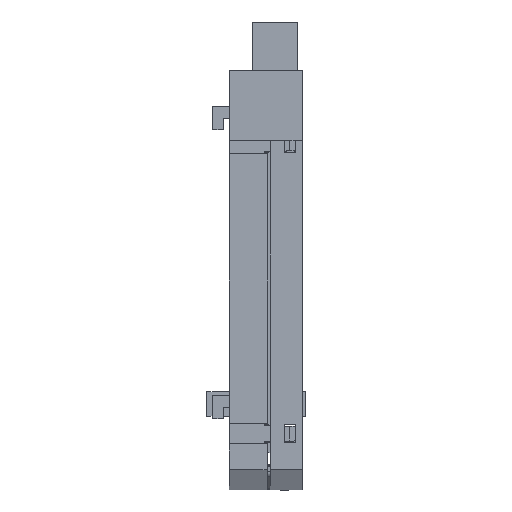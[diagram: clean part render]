
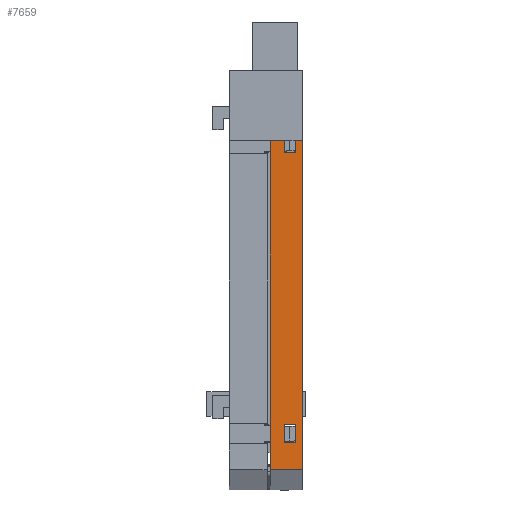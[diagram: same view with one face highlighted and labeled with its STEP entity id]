
A CAD part, front view. The second image highlights one B-rep face of the part: STEP entity #7659.
In plain terms, the highlighted planar face has unit normal (0, -1, 0).
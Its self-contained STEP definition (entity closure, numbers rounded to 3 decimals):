
#465 = ORIENTED_EDGE ( 'NONE', *, *, #31609, .T. ) ;
#1498 = AXIS2_PLACEMENT_3D ( 'NONE', #23207, #25899, #10509 ) ;
#2065 = CARTESIAN_POINT ( 'NONE',  ( 4.4, 0., -10.945 ) ) ;
#2085 = ORIENTED_EDGE ( 'NONE', *, *, #15683, .T. ) ;
#2871 = LINE ( 'NONE', #8119, #8955 ) ;
#3234 = VECTOR ( 'NONE', #29838, 1000. ) ;
#3393 = VECTOR ( 'NONE', #7978, 1000. ) ;
#4531 = EDGE_CURVE ( 'NONE', #29643, #28004, #5451, .T. ) ;
#5379 = CARTESIAN_POINT ( 'NONE',  ( 2.4, 0., -57.545 ) ) ;
#5451 = LINE ( 'NONE', #26873, #32055 ) ;
#5662 = EDGE_CURVE ( 'NONE', #14314, #32127, #8984, .T. ) ;
#5907 = LINE ( 'NONE', #7470, #18845 ) ;
#6136 = VERTEX_POINT ( 'NONE', #8213 ) ;
#6171 = DIRECTION ( 'NONE',  ( 1., 0., 0. ) ) ;
#6203 = DIRECTION ( 'NONE',  ( 0., 0., 1. ) ) ;
#6829 = CARTESIAN_POINT ( 'NONE',  ( 2.4, 0., -60.645 ) ) ;
#7420 = CARTESIAN_POINT ( 'NONE',  ( 4.4, 0., -10.945 ) ) ;
#7470 = CARTESIAN_POINT ( 'NONE',  ( 0., 0., 0. ) ) ;
#7659 = ADVANCED_FACE ( 'NONE', ( #26673, #20649, #28277 ), #20738, .F. ) ;
#7978 = DIRECTION ( 'NONE',  ( 1., 0., 0. ) ) ;
#8119 = CARTESIAN_POINT ( 'NONE',  ( 2.4, 0., -10.945 ) ) ;
#8138 = EDGE_CURVE ( 'NONE', #6136, #22129, #10934, .T. ) ;
#8213 = CARTESIAN_POINT ( 'NONE',  ( 5.5, 0., -65.25 ) ) ;
#8241 = EDGE_LOOP ( 'NONE', ( #12058, #32898, #11153, #21517 ) ) ;
#8955 = VECTOR ( 'NONE', #28697, 1000. ) ;
#8984 = LINE ( 'NONE', #10843, #28677 ) ;
#9144 = VERTEX_POINT ( 'NONE', #19131 ) ;
#9495 = VECTOR ( 'NONE', #31754, 1000. ) ;
#9792 = EDGE_LOOP ( 'NONE', ( #13839, #21927, #20443, #24899 ) ) ;
#9868 = DIRECTION ( 'NONE',  ( -1., 0., 0. ) ) ;
#10043 = EDGE_CURVE ( 'NONE', #12494, #22129, #5907, .T. ) ;
#10096 = DIRECTION ( 'NONE',  ( 0., 0., -1. ) ) ;
#10367 = CARTESIAN_POINT ( 'NONE',  ( 2.4, 0., -10.945 ) ) ;
#10509 = DIRECTION ( 'NONE',  ( 0., 0., 1. ) ) ;
#10843 = CARTESIAN_POINT ( 'NONE',  ( 2.4, 0., -60.645 ) ) ;
#10934 = LINE ( 'NONE', #24574, #3234 ) ;
#11153 = ORIENTED_EDGE ( 'NONE', *, *, #11230, .F. ) ;
#11230 = EDGE_CURVE ( 'NONE', #17953, #6136, #28655, .T. ) ;
#11562 = VERTEX_POINT ( 'NONE', #18925 ) ;
#11702 = LINE ( 'NONE', #2065, #31416 ) ;
#11850 = EDGE_CURVE ( 'NONE', #28004, #21921, #11702, .T. ) ;
#12058 = ORIENTED_EDGE ( 'NONE', *, *, #10043, .T. ) ;
#12349 = EDGE_LOOP ( 'NONE', ( #16069, #2085, #30623, #465 ) ) ;
#12494 = VERTEX_POINT ( 'NONE', #30748 ) ;
#12707 = CARTESIAN_POINT ( 'NONE',  ( 5.5, 0., 0. ) ) ;
#12933 = DIRECTION ( 'NONE',  ( -1., 0., 0. ) ) ;
#12957 = CARTESIAN_POINT ( 'NONE',  ( 2.4, 0., -10.945 ) ) ;
#13517 = CARTESIAN_POINT ( 'NONE',  ( 0., 0., -65.25 ) ) ;
#13759 = CARTESIAN_POINT ( 'NONE',  ( 4.4, 0., -60.645 ) ) ;
#13839 = ORIENTED_EDGE ( 'NONE', *, *, #21126, .T. ) ;
#13887 = CARTESIAN_POINT ( 'NONE',  ( 2.4, 0., -60.645 ) ) ;
#14314 = VERTEX_POINT ( 'NONE', #26474 ) ;
#14785 = DIRECTION ( 'NONE',  ( 0., 0., -1. ) ) ;
#15033 = CARTESIAN_POINT ( 'NONE',  ( 2.4, 0., -7.845 ) ) ;
#15683 = EDGE_CURVE ( 'NONE', #32127, #11562, #18043, .T. ) ;
#16049 = DIRECTION ( 'NONE',  ( -1., 0., 0. ) ) ;
#16069 = ORIENTED_EDGE ( 'NONE', *, *, #5662, .T. ) ;
#17380 = CARTESIAN_POINT ( 'NONE',  ( 5.5, 0., 0. ) ) ;
#17953 = VERTEX_POINT ( 'NONE', #12707 ) ;
#18043 = LINE ( 'NONE', #13887, #24066 ) ;
#18194 = VECTOR ( 'NONE', #12933, 1000. ) ;
#18845 = VECTOR ( 'NONE', #10096, 1000. ) ;
#18873 = VERTEX_POINT ( 'NONE', #12957 ) ;
#18925 = CARTESIAN_POINT ( 'NONE',  ( 2.4, 0., -57.545 ) ) ;
#19131 = CARTESIAN_POINT ( 'NONE',  ( 4.4, 0., -57.545 ) ) ;
#19935 = EDGE_CURVE ( 'NONE', #11562, #9144, #23959, .T. ) ;
#20443 = ORIENTED_EDGE ( 'NONE', *, *, #11850, .T. ) ;
#20649 = FACE_BOUND ( 'NONE', #12349, .T. ) ;
#20738 = PLANE ( 'NONE',  #1498 ) ;
#21126 = EDGE_CURVE ( 'NONE', #18873, #29643, #2871, .T. ) ;
#21517 = ORIENTED_EDGE ( 'NONE', *, *, #27462, .T. ) ;
#21850 = VECTOR ( 'NONE', #14785, 1000. ) ;
#21921 = VERTEX_POINT ( 'NONE', #7420 ) ;
#21927 = ORIENTED_EDGE ( 'NONE', *, *, #4531, .T. ) ;
#22129 = VERTEX_POINT ( 'NONE', #13517 ) ;
#22701 = DIRECTION ( 'NONE',  ( 0., 0., -1. ) ) ;
#23207 = CARTESIAN_POINT ( 'NONE',  ( 5.5, 0., 0. ) ) ;
#23959 = LINE ( 'NONE', #5379, #3393 ) ;
#24066 = VECTOR ( 'NONE', #6203, 1000. ) ;
#24574 = CARTESIAN_POINT ( 'NONE',  ( 5.5, 0., -65.25 ) ) ;
#24899 = ORIENTED_EDGE ( 'NONE', *, *, #25700, .T. ) ;
#25317 = VECTOR ( 'NONE', #9868, 1000. ) ;
#25700 = EDGE_CURVE ( 'NONE', #21921, #18873, #26626, .T. ) ;
#25899 = DIRECTION ( 'NONE',  ( 0., 1., 0. ) ) ;
#26474 = CARTESIAN_POINT ( 'NONE',  ( 4.4, 0., -60.645 ) ) ;
#26626 = LINE ( 'NONE', #10367, #18194 ) ;
#26673 = FACE_BOUND ( 'NONE', #9792, .T. ) ;
#26873 = CARTESIAN_POINT ( 'NONE',  ( 2.4, 0., -7.845 ) ) ;
#27462 = EDGE_CURVE ( 'NONE', #17953, #12494, #32156, .T. ) ;
#27834 = CARTESIAN_POINT ( 'NONE',  ( 5.5, 0., 0. ) ) ;
#28004 = VERTEX_POINT ( 'NONE', #30272 ) ;
#28277 = FACE_OUTER_BOUND ( 'NONE', #8241, .T. ) ;
#28655 = LINE ( 'NONE', #17380, #21850 ) ;
#28677 = VECTOR ( 'NONE', #16049, 1000. ) ;
#28697 = DIRECTION ( 'NONE',  ( 0., 0., 1. ) ) ;
#29643 = VERTEX_POINT ( 'NONE', #15033 ) ;
#29838 = DIRECTION ( 'NONE',  ( -1., 0., 0. ) ) ;
#30006 = LINE ( 'NONE', #13759, #9495 ) ;
#30272 = CARTESIAN_POINT ( 'NONE',  ( 4.4, 0., -7.845 ) ) ;
#30623 = ORIENTED_EDGE ( 'NONE', *, *, #19935, .T. ) ;
#30748 = CARTESIAN_POINT ( 'NONE',  ( 0., 0., 0. ) ) ;
#31416 = VECTOR ( 'NONE', #22701, 1000. ) ;
#31609 = EDGE_CURVE ( 'NONE', #9144, #14314, #30006, .T. ) ;
#31754 = DIRECTION ( 'NONE',  ( 0., 0., -1. ) ) ;
#32055 = VECTOR ( 'NONE', #6171, 1000. ) ;
#32127 = VERTEX_POINT ( 'NONE', #6829 ) ;
#32156 = LINE ( 'NONE', #27834, #25317 ) ;
#32898 = ORIENTED_EDGE ( 'NONE', *, *, #8138, .F. ) ;
